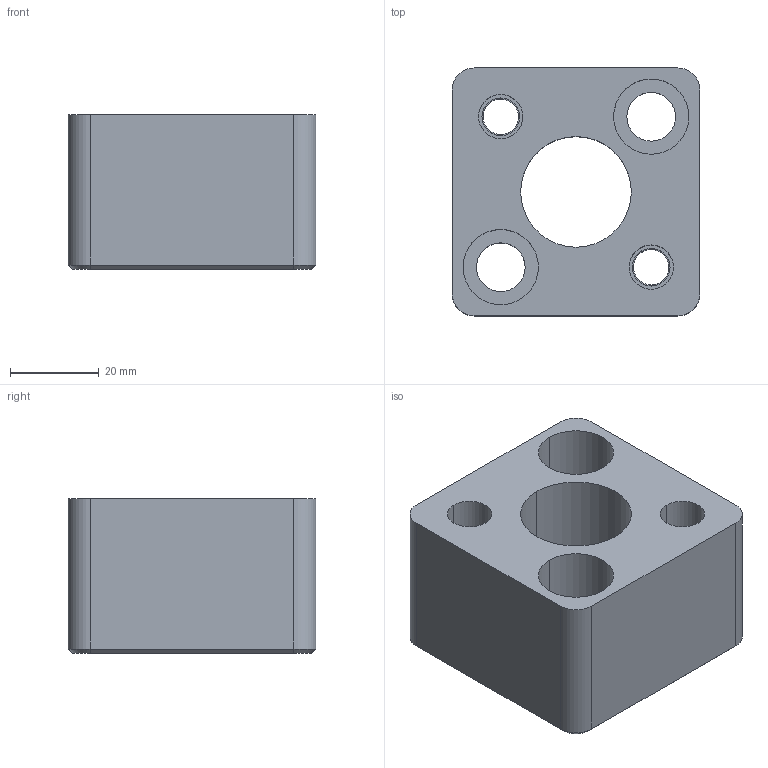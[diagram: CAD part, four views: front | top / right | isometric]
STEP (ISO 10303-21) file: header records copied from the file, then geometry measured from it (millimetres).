
FILE_DESCRIPTION(/* description */ (''),/* implementation_level */ '2;1');
FILE_NAME(/* name */ '3d_hsa-an25_04174_r00.stp',/* time_stamp */ '2011-01-10T14:14:37+09:00',/* author */ ('MISUMI'),/* organization */ (''),/* preprocessor_version */ 'ST-DEVELOPER v11',/* originating_system */ 'UGS - NX 5.0',/* authorisation */ '');
FILE_SCHEMA (('CONFIG_CONTROL_DESIGN'));
Length unit declared in the file: millimetre
Products named in the file (1): 3d_hsa-an25_04174_r00
Bounding box: 56 x 56 x 35 mm (x, y, z)
Volume: 73858.9 mm3; surface area: 19985.5 mm2
Topology: 1 solids, 1 shells, 51 faces, 116 edges, 74 vertices
Faces by surface type: cylinder 28, plane 17, cone 6
Entity records: 1563 total; most frequent: DIRECTION 277, CARTESIAN_POINT 257, ORIENTED_EDGE 232, EDGE_CURVE 116, AXIS2_PLACEMENT_3D 114, VERTEX_POINT 74, EDGE_LOOP 68, CIRCLE 62
